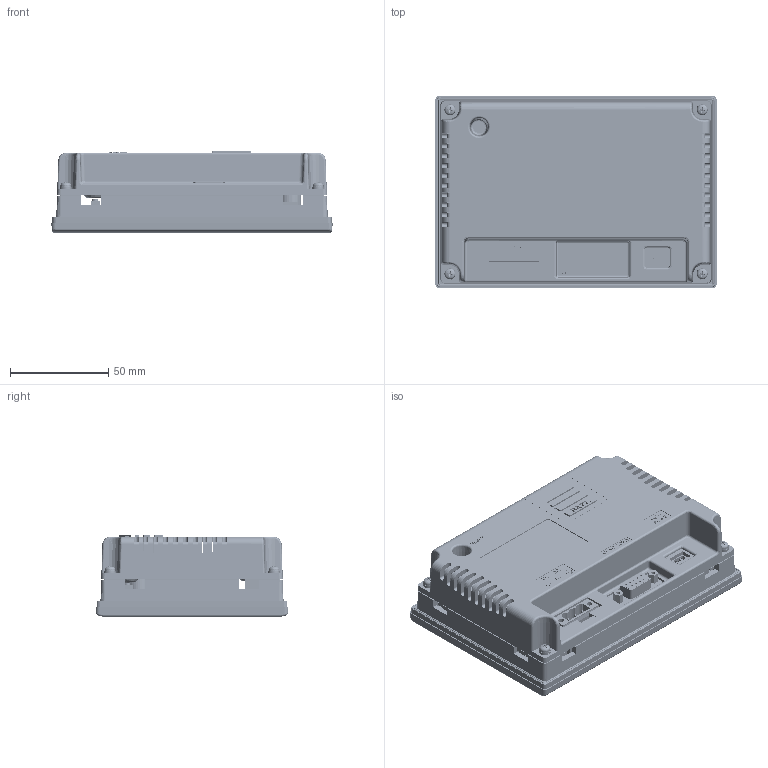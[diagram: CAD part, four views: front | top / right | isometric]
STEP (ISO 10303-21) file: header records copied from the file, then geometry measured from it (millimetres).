
FILE_DESCRIPTION((''),'2;1');
FILE_NAME('Z:\黃世程\4_可提供給客戶3D檔案\1_3D\EC205_3D.stp','2014-03-18T11:02:26',('11254'),(''),'Autodesk Inventor 2008','Autodesk Inventor 2008','');
FILE_SCHEMA(('AUTOMOTIVE_DESIGN { 1 0 10303 214 1 1 1 1 }'));
Length unit declared in the file: millimetre
Products named in the file (1): EC205_3D
Bounding box: 143 x 98.1 x 41.4 mm (x, y, z)
Volume: 173203.8 mm3; surface area: 139236.9 mm2
Topology: 1 solids, 2 shells, 15764 faces, 46314 edges, 30784 vertices
Faces by surface type: plane 14575, bspline 538, cylinder 535, cone 77, torus 33, sphere 6
Full cylindrical faces by diameter (mm): 0.558 x1, 0.6 x5, 0.602 x9, 0.772 x1, 0.8 x3, 0.852 x8, 0.855 x1, 0.9 x3, 1 x27, 1.551 x2, 1.602 x1, 1.652 x2, 1.979 x1, 2 x5, 2.694 x4, 3 x6, 3.1 x2, 3.2 x6, 3.266 x1, 3.3 x1, 3.5 x6, 3.919 x1, 4 x6, 4.5 x1, 5 x2, 6 x4, 12 x2, 20 x1
Entity records: 519550 total; most frequent: CARTESIAN_POINT 102391, ORIENTED_EDGE 92284, DIRECTION 77167, EDGE_CURVE 46142, VECTOR 43779, LINE 43779, VERTEX_POINT 30763, AXIS2_PLACEMENT_3D 16694
